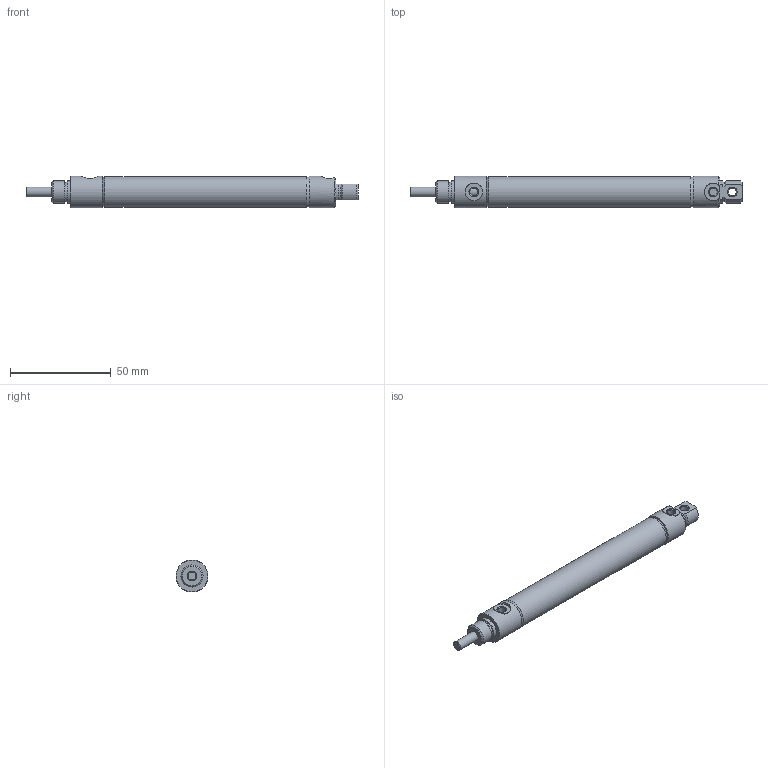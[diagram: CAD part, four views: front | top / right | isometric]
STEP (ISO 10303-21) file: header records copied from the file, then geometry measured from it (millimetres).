
FILE_DESCRIPTION( ( 'STEP AP214' ), '1' );
FILE_NAME( 'p:/temp/worker_449/temp/exporttempdir_4124_122_71d4t/format_0/0563D02-03A-03.stp', '2020-05-07T14:19:26', ( 'License CC BY-ND 4.0' ), ( 'CADENAS' ), ' ', 'PARTsolutions', ' ' );
FILE_SCHEMA( ( 'AUTOMOTIVE_DESIGN { 1 0 10303 214 1 1 1 1 }' ) );
Length unit declared in the file: inch
Products named in the file (3): 0563D02-03A-03; _0563D02-03A-0300A00A0b; _0563D02-03A-0300A00A0r
Assembly tree (2 placements, depth 2):
  0563D02-03A-03
    _0563D02-03A-0300A00A0b
    _0563D02-03A-0300A00A0r
Bounding box: 165.13 x 15.88 x 15.88 mm (x, y, z)
Volume: 15609.4 mm3; surface area: 16157.3 mm2
Topology: 2 solids, 2 shells, 58 faces, 120 edges, 77 vertices
Faces by surface type: cylinder 22, plane 22, cone 14
Full cylindrical faces by diameter (mm): 3.967 x2, 3.988 x1, 4.775 x2, 4.826 x1, 8.738 x1, 9.601 x1, 11.1 x2, 14.287 x2, 15.392 x1, 15.875 x2
Entity records: 2087 total; most frequent: CARTESIAN_POINT 422, DIRECTION 253, ORIENTED_EDGE 186, AXIS2_PLACEMENT_3D 115, EDGE_LOOP 97, EDGE_CURVE 93, VERTEX_POINT 74, FACE_OUTER_BOUND 73
